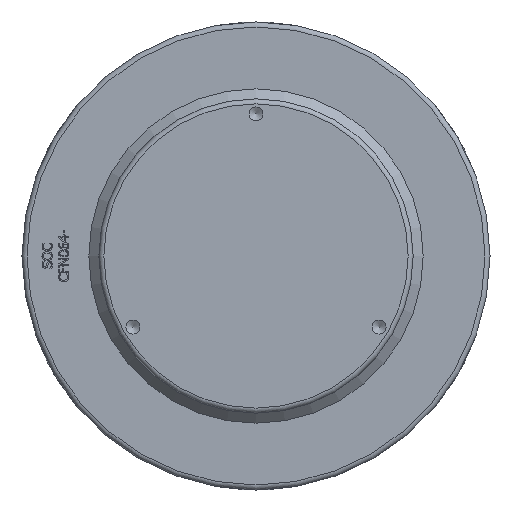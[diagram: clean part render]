
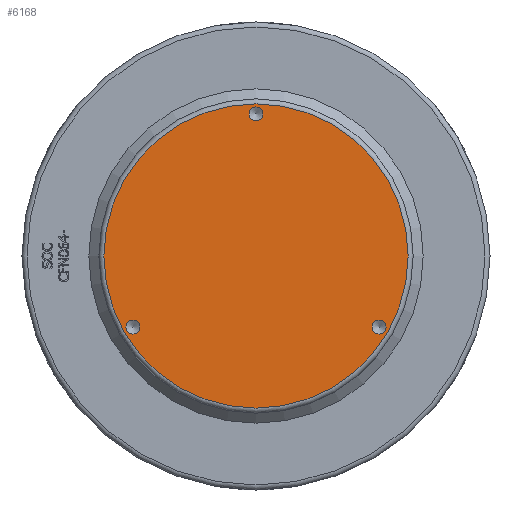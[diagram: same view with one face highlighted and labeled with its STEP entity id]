
A CAD part, front view. The second image highlights one B-rep face of the part: STEP entity #6168.
In plain terms, the highlighted planar face has unit normal (0, -1, 0) as drawn and (0, 1, 0) by its records, which use the part's own axes.
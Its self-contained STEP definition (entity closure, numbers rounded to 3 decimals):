
#1668=PLANE('',#6479);
#1755=FACE_BOUND('',#2351,.T.);
#1756=FACE_BOUND('',#2352,.T.);
#1757=FACE_BOUND('',#2353,.T.);
#1979=FACE_OUTER_BOUND('',#2350,.T.);
#2350=EDGE_LOOP('',(#5047));
#2351=EDGE_LOOP('',(#5048));
#2352=EDGE_LOOP('',(#5049));
#2353=EDGE_LOOP('',(#5050));
#2577=CIRCLE('',#6408,4.188);
#2579=CIRCLE('',#6412,4.188);
#2581=CIRCLE('',#6416,4.188);
#2583=CIRCLE('',#6477,91.);
#2603=VERTEX_POINT('',#7461);
#2605=VERTEX_POINT('',#7467);
#2607=VERTEX_POINT('',#7473);
#2907=VERTEX_POINT('',#9737);
#3229=EDGE_CURVE('',#2603,#2603,#2577,.T.);
#3231=EDGE_CURVE('',#2605,#2605,#2579,.T.);
#3233=EDGE_CURVE('',#2607,#2607,#2581,.T.);
#3682=EDGE_CURVE('',#2907,#2907,#2583,.T.);
#5047=ORIENTED_EDGE('',*,*,#3682,.F.);
#5048=ORIENTED_EDGE('',*,*,#3229,.T.);
#5049=ORIENTED_EDGE('',*,*,#3231,.T.);
#5050=ORIENTED_EDGE('',*,*,#3233,.T.);
#6168=ADVANCED_FACE('',(#1979,#1755,#1756,#1757),#1668,.T.);
#6408=AXIS2_PLACEMENT_3D('',#7462,#6601,#6602);
#6412=AXIS2_PLACEMENT_3D('',#7468,#6609,#6610);
#6416=AXIS2_PLACEMENT_3D('',#7474,#6617,#6618);
#6477=AXIS2_PLACEMENT_3D('',#9738,#6978,#6979);
#6479=AXIS2_PLACEMENT_3D('',#9741,#6982,#6983);
#6601=DIRECTION('center_axis',(0.,-1.,0.));
#6602=DIRECTION('ref_axis',(-0.5,0.,-0.866));
#6609=DIRECTION('center_axis',(0.,-1.,0.));
#6610=DIRECTION('ref_axis',(-0.5,0.,0.866));
#6617=DIRECTION('center_axis',(0.,-1.,0.));
#6618=DIRECTION('ref_axis',(1.,0.,0.));
#6978=DIRECTION('center_axis',(0.,-1.,0.));
#6979=DIRECTION('ref_axis',(-1.,0.,0.));
#6982=DIRECTION('center_axis',(0.,1.,0.));
#6983=DIRECTION('ref_axis',(0.,0.,1.));
#7461=CARTESIAN_POINT('',(71.518,168.,-46.127));
#7462=CARTESIAN_POINT('Origin',(73.612,168.,-42.5));
#7467=CARTESIAN_POINT('',(-75.706,168.,-38.873));
#7468=CARTESIAN_POINT('Origin',(-73.612,168.,-42.5));
#7473=CARTESIAN_POINT('',(4.188,168.,85.));
#7474=CARTESIAN_POINT('Origin',(0.,168.,85.));
#9737=CARTESIAN_POINT('',(91.,168.,0.));
#9738=CARTESIAN_POINT('Origin',(0.,168.,0.));
#9741=CARTESIAN_POINT('Origin',(94.,168.,0.));
